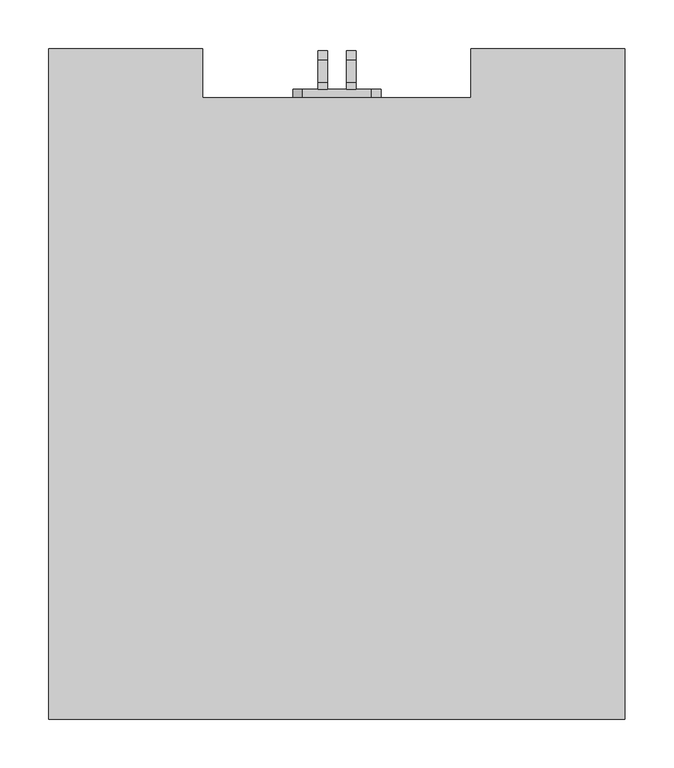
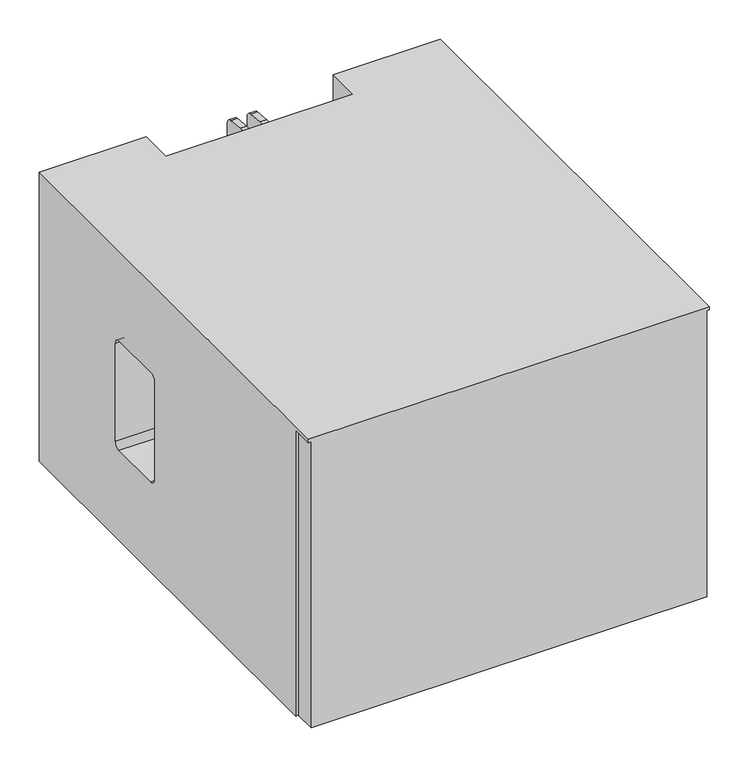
"""IFC4 building model written with IfcOpenShell, lengths in millimetres: proxy geometry, d&b CL-Series CCLi-SUB : CCLi-SUB."""

from ifc_helpers import new_model, si_unit, point, frame, frame_2d, origin, place, context, project, spatial, polyline, circle_curve, trimmed, segment, composite_curve, outline, extrude, source, transform, mapped, element, save
from ifc_brep_helpers import plane_surface, revolved_surface, advanced_brep


def communication_devices_964db2fb(model_context):
    return source(origin(), model_context, "Body", "SolidModel", [
        advanced_brep(
        [(2362.5, 649.4505973, 5.0), (2362.5, 599.4505973, 5.0), (2637.5, 599.4505973, 5.0), (2637.5, 649.4505973, 5.0), (2795.0, 649.4505973, 5.0), (2795.0, -5.5494027, 5.0), (2791.0, -5.5494027, 5.0), (2791.0, -36.5494027, 5.0), (2209.0, -36.5494027, 5.0), (2209.0, -4.1494027, 5.0), (2205.0, -4.1494027, 5.0), (2205.0, 649.4505973, 5.0), (2280.0, 589.4505973, 5.0), (2240.0, 589.4505973, 5.0), (2760.0, 589.4505973, 5.0), (2720.0, 589.4505973, 5.0), (2280.0, 29.4505973, 5.0), (2240.0, 29.4505973, 5.0), (2760.0, 29.4505973, 5.0), (2720.0, 29.4505973, 5.0), (2362.5, 649.4505973, 455.0), (2205.0, 649.4505973, 455.0), (2205.0, -36.5494027, 455.0), (2795.0, -36.5494027, 455.0), (2795.0, 649.4505973, 455.0), (2637.5, 649.4505973, 455.0), (2637.5, 599.4505973, 455.0), (2362.5, 599.4505973, 455.0), (2718.5, 644.4505973, 271.0), (2729.0, 644.4505973, 260.5), (2729.0, 644.4505973, 159.5), (2718.5, 644.4505973, 149.0), (2674.5, 644.4505973, 149.0), (2664.0, 644.4505973, 159.5), (2664.0, 644.4505973, 260.5), (2674.5, 644.4505973, 271.0), (2281.5, 644.4505973, 271.0), (2325.5, 644.4505973, 271.0), (2336.0, 644.4505973, 260.5), (2336.0, 644.4505973, 159.5), (2325.5, 644.4505973, 149.0), (2281.5, 644.4505973, 149.0), (2271.0, 644.4505973, 159.5), (2271.0, 644.4505973, 260.5), (2205.0, -36.5494027, 450.0), (2209.0, -36.5494027, 450.0), (2791.0, -36.5494027, 450.0), (2795.0, -36.5494027, 450.0), (2725.0, 455.2505973, 306.2), (2725.0, 446.2505973, 315.2), (2725.0, 365.2505973, 315.2), (2725.0, 356.2505973, 306.2), (2725.0, 356.2505973, 154.2), (2725.0, 365.2505973, 145.2), (2725.0, 446.2505973, 145.2), (2725.0, 455.2505973, 154.2), (2729.0, 649.4505973, 260.5), (2718.5, 649.4505973, 271.0), (2674.5, 649.4505973, 271.0), (2664.0, 649.4505973, 260.5), (2664.0, 649.4505973, 159.5), (2674.5, 649.4505973, 149.0), (2718.5, 649.4505973, 149.0), (2729.0, 649.4505973, 159.5), (2205.0, -4.1494027, 450.0), (2209.0, -4.1494027, 450.0), (2795.0, -5.5494027, 450.0), (2791.0, -5.5494027, 450.0), (2625.0, 599.4505973, 145.0), (2625.0, 599.4505973, 395.0), (2612.0, 599.4505973, 408.0), (2544.3424624, 599.4505973, 408.0), (2524.5518543, 599.4505973, 334.1404454), (2524.5518543, 599.4505973, 132.0), (2612.0, 599.4505973, 132.0), (2388.0, 599.4505973, 408.0), (2375.0, 599.4505973, 395.0), (2375.0, 599.4505973, 145.0), (2388.0, 599.4505973, 132.0), (2475.4481457, 599.4505973, 132.0), (2475.4481457, 599.4505973, 334.1404454), (2455.6575376, 599.4505973, 408.0), (2549.4918854, 599.4505973, 42.6706286), (2558.1852178, 599.4505973, 36.0), (2617.0, 599.4505973, 36.0), (2626.0, 599.4505973, 45.0), (2626.0, 599.4505973, 120.0), (2617.0, 599.4505973, 129.0), (2538.0890284, 599.4505973, 129.0), (2529.3956959, 599.4505973, 117.6706286), (2450.5081146, 599.4505973, 42.6706286), (2470.6043041, 599.4505973, 117.6706286), (2461.9109716, 599.4505973, 129.0), (2383.0, 599.4505973, 129.0), (2374.0, 599.4505973, 120.0), (2374.0, 599.4505973, 45.0), (2383.0, 599.4505973, 36.0), (2441.8147822, 599.4505973, 36.0), (2325.5, 649.4505973, 271.0), (2281.5, 649.4505973, 271.0), (2271.0, 649.4505973, 260.5), (2271.0, 649.4505973, 159.5), (2281.5, 649.4505973, 149.0), (2325.5, 649.4505973, 149.0), (2336.0, 649.4505973, 159.5), (2336.0, 649.4505973, 260.5), (2275.0, 446.2505973, 315.2), (2275.0, 455.2505973, 306.2), (2275.0, 455.2505973, 154.2), (2275.0, 446.2505973, 145.2), (2275.0, 365.2505973, 145.2), (2275.0, 356.2505973, 154.2), (2275.0, 356.2505973, 306.2), (2275.0, 365.2505973, 315.2), (2795.0, 446.2505973, 315.2), (2795.0, 455.2505973, 306.2), (2795.0, 455.2505973, 154.2), (2795.0, 446.2505973, 145.2), (2795.0, 365.2505973, 145.2), (2795.0, 356.2505973, 154.2), (2795.0, 356.2505973, 306.2), (2795.0, 365.2505973, 315.2), (2205.0, 446.2505973, 315.2), (2205.0, 365.2505973, 315.2), (2205.0, 356.2505973, 306.2), (2205.0, 356.2505973, 154.2), (2205.0, 365.2505973, 145.2), (2205.0, 446.2505973, 145.2), (2205.0, 455.2505973, 154.2), (2205.0, 455.2505973, 306.2), (2625.0, 594.4505973, 395.0), (2625.0, 594.4505973, 145.0), (2612.0, 594.4505973, 132.0), (2524.5518543, 594.4505973, 132.0), (2524.5518543, 594.4505973, 334.1404454), (2544.3424624, 594.4505973, 408.0), (2612.0, 594.4505973, 408.0), (2375.0, 594.4505973, 395.0), (2388.0, 594.4505973, 408.0), (2455.6575376, 594.4505973, 408.0), (2475.4481457, 594.4505973, 334.1404454), (2475.4481457, 594.4505973, 132.0), (2388.0, 594.4505973, 132.0), (2375.0, 594.4505973, 145.0), (2558.1852178, 594.4505973, 36.0), (2549.4918854, 594.4505973, 42.6706286), (2529.3956959, 594.4505973, 117.6706286), (2538.0890284, 594.4505973, 129.0), (2617.0, 594.4505973, 129.0), (2626.0, 594.4505973, 120.0), (2626.0, 594.4505973, 45.0), (2617.0, 594.4505973, 36.0), (2470.6043041, 594.4505973, 117.6706286), (2450.5081146, 594.4505973, 42.6706286), (2441.8147822, 594.4505973, 36.0), (2383.0, 594.4505973, 36.0), (2374.0, 594.4505973, 45.0), (2374.0, 594.4505973, 120.0), (2383.0, 594.4505973, 129.0), (2461.9109716, 594.4505973, 129.0), (2280.0, 589.4505973, 15.0), (2240.0, 589.4505973, 15.0), (2760.0, 589.4505973, 15.0), (2720.0, 589.4505973, 15.0), (2280.0, 29.4505973, 15.0), (2240.0, 29.4505973, 15.0), (2760.0, 29.4505973, 15.0), (2720.0, 29.4505973, 15.0)],
        [
            (0, 1),
            (1, 2),
            (2, 3),
            (3, 4),
            (4, 5),
            (5, 6),
            (6, 7),
            (7, 8),
            (8, 9),
            (9, 10),
            (10, 11),
            (11, 0),
            (12, 13, circle_curve(frame((2260.0, 589.4505973, 5.0), z_axis=(0.0, 0.0, 1.0), x_axis=(-1.0, 0.0, 0.0)), 20.0)),
            (13, 12, circle_curve(frame((2260.0, 589.4505973, 5.0), z_axis=(0.0, 0.0, 1.0), x_axis=(-1.0, 0.0, 0.0)), 20.0)),
            (14, 15, circle_curve(frame((2740.0, 589.4505973, 5.0), z_axis=(0.0, 0.0, 1.0), x_axis=(-1.0, 0.0, 0.0)), 20.0)),
            (15, 14, circle_curve(frame((2740.0, 589.4505973, 5.0), z_axis=(0.0, 0.0, 1.0), x_axis=(-1.0, 0.0, 0.0)), 20.0)),
            (16, 17, circle_curve(frame((2260.0, 29.4505973, 5.0), z_axis=(0.0, 0.0, 1.0), x_axis=(-1.0, 0.0, 0.0)), 20.0)),
            (17, 16, circle_curve(frame((2260.0, 29.4505973, 5.0), z_axis=(0.0, 0.0, 1.0), x_axis=(-1.0, 0.0, 0.0)), 20.0)),
            (18, 19, circle_curve(frame((2740.0, 29.4505973, 5.0), z_axis=(0.0, 0.0, 1.0), x_axis=(-1.0, 0.0, 0.0)), 20.0)),
            (19, 18, circle_curve(frame((2740.0, 29.4505973, 5.0), z_axis=(0.0, 0.0, 1.0), x_axis=(-1.0, 0.0, 0.0)), 20.0)),
            (20, 21),
            (21, 22),
            (22, 23),
            (23, 24),
            (24, 25),
            (25, 26),
            (26, 27),
            (27, 20),
            (28, 29, circle_curve(frame((2718.5, 644.4505973, 260.5), z_axis=(0.0, 1.0, 0.0), x_axis=(1.0, 0.0, 0.0)), 10.5)),
            (29, 30),
            (30, 31, circle_curve(frame((2718.5, 644.4505973, 159.5), z_axis=(0.0, 1.0, 0.0), x_axis=(1.0, 0.0, 0.0)), 10.5)),
            (31, 32),
            (32, 33, circle_curve(frame((2674.5, 644.4505973, 159.5), z_axis=(0.0, 1.0, 0.0), x_axis=(1.0, 0.0, 0.0)), 10.5)),
            (33, 34),
            (34, 35, circle_curve(frame((2674.5, 644.4505973, 260.5), z_axis=(0.0, 1.0, 0.0), x_axis=(1.0, 0.0, 0.0)), 10.5)),
            (35, 28),
            (36, 37),
            (37, 38, circle_curve(frame((2325.5, 644.4505973, 260.5), z_axis=(0.0, 1.0, 0.0), x_axis=(-1.0, 0.0, 0.0)), 10.5)),
            (38, 39),
            (39, 40, circle_curve(frame((2325.5, 644.4505973, 159.5), z_axis=(0.0, 1.0, 0.0), x_axis=(-1.0, 0.0, 0.0)), 10.5)),
            (40, 41),
            (41, 42, circle_curve(frame((2281.5, 644.4505973, 159.5), z_axis=(0.0, 1.0, 0.0), x_axis=(-1.0, 0.0, 0.0)), 10.5)),
            (42, 43),
            (43, 36, circle_curve(frame((2281.5, 644.4505973, 260.5), z_axis=(0.0, 1.0, 0.0), x_axis=(-1.0, 0.0, 0.0)), 10.5)),
            (22, 44),
            (44, 45),
            (45, 8),
            (7, 46),
            (46, 47),
            (47, 23),
            (48, 49, circle_curve(frame((2725.0, 446.2505973, 306.2), z_axis=(1.0, 0.0, 0.0), x_axis=(0.0, 0.0, 1.0)), 9.0)),
            (49, 50),
            (50, 51, circle_curve(frame((2725.0, 365.2505973, 306.2), z_axis=(1.0, 0.0, 0.0), x_axis=(0.0, 0.0, 1.0)), 9.0)),
            (51, 52),
            (52, 53, circle_curve(frame((2725.0, 365.2505973, 154.2), z_axis=(1.0, 0.0, 0.0), x_axis=(0.0, 0.0, 1.0)), 9.0)),
            (53, 54),
            (54, 55, circle_curve(frame((2725.0, 446.2505973, 154.2), z_axis=(1.0, 0.0, 0.0), x_axis=(0.0, 0.0, 1.0)), 9.0)),
            (55, 48),
            (3, 25),
            (24, 4),
            (56, 57, circle_curve(frame((2718.5, 649.4505973, 260.5), z_axis=(0.0, -1.0, 0.0), x_axis=(1.0, 0.0, 0.0)), 10.5)),
            (57, 58),
            (58, 59, circle_curve(frame((2674.5, 649.4505973, 260.5), z_axis=(0.0, -1.0, 0.0), x_axis=(1.0, 0.0, 0.0)), 10.5)),
            (59, 60),
            (60, 61, circle_curve(frame((2674.5, 649.4505973, 159.5), z_axis=(0.0, -1.0, 0.0), x_axis=(1.0, 0.0, 0.0)), 10.5)),
            (61, 62),
            (62, 63, circle_curve(frame((2718.5, 649.4505973, 159.5), z_axis=(0.0, -1.0, 0.0), x_axis=(1.0, 0.0, 0.0)), 10.5)),
            (63, 56),
            (44, 64),
            (64, 65),
            (65, 45),
            (66, 47),
            (46, 67),
            (67, 66),
            (2, 26),
            (1, 27),
            (68, 69),
            (69, 70, circle_curve(frame((2612.0, 599.4505973, 395.0), z_axis=(0.0, -1.0, 0.0), x_axis=(1.0, 0.0, 0.0)), 13.0)),
            (70, 71),
            (71, 72),
            (72, 73),
            (73, 74),
            (74, 68, circle_curve(frame((2612.0, 599.4505973, 145.0), z_axis=(0.0, -1.0, 0.0), x_axis=(1.0, 0.0, 0.0)), 13.0)),
            (75, 76, circle_curve(frame((2388.0, 599.4505973, 395.0), z_axis=(0.0, -1.0, 0.0), x_axis=(-1.0, 0.0, 0.0)), 13.0)),
            (76, 77),
            (77, 78, circle_curve(frame((2388.0, 599.4505973, 145.0), z_axis=(0.0, -1.0, 0.0), x_axis=(-1.0, 0.0, 0.0)), 13.0)),
            (78, 79),
            (79, 80),
            (80, 81),
            (81, 75),
            (82, 83, circle_curve(frame((2558.1852178, 599.4505973, 45.0), z_axis=(0.0, -1.0, 0.0), x_axis=(1.0, 0.0, 0.0)), 9.0)),
            (83, 84),
            (84, 85, circle_curve(frame((2617.0, 599.4505973, 45.0), z_axis=(0.0, -1.0, 0.0), x_axis=(1.0, 0.0, 0.0)), 9.0)),
            (85, 86),
            (86, 87, circle_curve(frame((2617.0, 599.4505973, 120.0), z_axis=(0.0, -1.0, 0.0), x_axis=(1.0, 0.0, 0.0)), 9.0)),
            (87, 88),
            (88, 89, circle_curve(frame((2538.0890284, 599.4505973, 120.0), z_axis=(0.0, -1.0, 0.0), x_axis=(1.0, 0.0, 0.0)), 9.0)),
            (89, 82),
            (90, 91),
            (91, 92, circle_curve(frame((2461.9109716, 599.4505973, 120.0), z_axis=(0.0, -1.0, 0.0), x_axis=(-1.0, 0.0, 0.0)), 9.0)),
            (92, 93),
            (93, 94, circle_curve(frame((2383.0, 599.4505973, 120.0), z_axis=(0.0, -1.0, 0.0), x_axis=(-1.0, 0.0, 0.0)), 9.0)),
            (94, 95),
            (95, 96, circle_curve(frame((2383.0, 599.4505973, 45.0), z_axis=(0.0, -1.0, 0.0), x_axis=(-1.0, 0.0, 0.0)), 9.0)),
            (96, 97),
            (97, 90, circle_curve(frame((2441.8147822, 599.4505973, 45.0), z_axis=(0.0, -1.0, 0.0), x_axis=(-1.0, 0.0, 0.0)), 9.0)),
            (0, 20),
            (11, 21),
            (98, 99),
            (99, 100, circle_curve(frame((2281.5, 649.4505973, 260.5), z_axis=(0.0, -1.0, 0.0), x_axis=(-1.0, 0.0, 0.0)), 10.5)),
            (100, 101),
            (101, 102, circle_curve(frame((2281.5, 649.4505973, 159.5), z_axis=(0.0, -1.0, 0.0), x_axis=(-1.0, 0.0, 0.0)), 10.5)),
            (102, 103),
            (103, 104, circle_curve(frame((2325.5, 649.4505973, 159.5), z_axis=(0.0, -1.0, 0.0), x_axis=(-1.0, 0.0, 0.0)), 10.5)),
            (104, 105),
            (105, 98, circle_curve(frame((2325.5, 649.4505973, 260.5), z_axis=(0.0, -1.0, 0.0), x_axis=(-1.0, 0.0, 0.0)), 10.5)),
            (106, 107, circle_curve(frame((2275.0, 446.2505973, 306.2), z_axis=(-1.0, 0.0, 0.0), x_axis=(0.0, 0.0, 1.0)), 9.0)),
            (107, 108),
            (108, 109, circle_curve(frame((2275.0, 446.2505973, 154.2), z_axis=(-1.0, 0.0, 0.0), x_axis=(0.0, 0.0, 1.0)), 9.0)),
            (109, 110),
            (110, 111, circle_curve(frame((2275.0, 365.2505973, 154.2), z_axis=(-1.0, 0.0, 0.0), x_axis=(0.0, 0.0, 1.0)), 9.0)),
            (111, 112),
            (112, 113, circle_curve(frame((2275.0, 365.2505973, 306.2), z_axis=(-1.0, 0.0, 0.0), x_axis=(0.0, 0.0, 1.0)), 9.0)),
            (113, 106),
            (66, 5),
            (114, 115, circle_curve(frame((2795.0, 446.2505973, 306.2), z_axis=(-1.0, 0.0, 0.0), x_axis=(0.0, 0.0, 1.0)), 9.0)),
            (115, 116),
            (116, 117, circle_curve(frame((2795.0, 446.2505973, 154.2), z_axis=(-1.0, 0.0, 0.0), x_axis=(0.0, 0.0, 1.0)), 9.0)),
            (117, 118),
            (118, 119, circle_curve(frame((2795.0, 365.2505973, 154.2), z_axis=(-1.0, 0.0, 0.0), x_axis=(0.0, 0.0, 1.0)), 9.0)),
            (119, 120),
            (120, 121, circle_curve(frame((2795.0, 365.2505973, 306.2), z_axis=(-1.0, 0.0, 0.0), x_axis=(0.0, 0.0, 1.0)), 9.0)),
            (121, 114),
            (67, 6),
            (114, 49),
            (48, 115),
            (55, 116),
            (54, 117),
            (53, 118),
            (52, 119),
            (51, 120),
            (50, 121),
            (10, 64),
            (122, 123),
            (123, 124, circle_curve(frame((2205.0, 365.2505973, 306.2), z_axis=(1.0, 0.0, 0.0), x_axis=(0.0, 0.0, 1.0)), 9.0)),
            (124, 125),
            (125, 126, circle_curve(frame((2205.0, 365.2505973, 154.2), z_axis=(1.0, 0.0, 0.0), x_axis=(0.0, 0.0, 1.0)), 9.0)),
            (126, 127),
            (127, 128, circle_curve(frame((2205.0, 446.2505973, 154.2), z_axis=(1.0, 0.0, 0.0), x_axis=(0.0, 0.0, 1.0)), 9.0)),
            (128, 129),
            (129, 122, circle_curve(frame((2205.0, 446.2505973, 306.2), z_axis=(1.0, 0.0, 0.0), x_axis=(0.0, 0.0, 1.0)), 9.0)),
            (9, 65),
            (129, 107),
            (106, 122),
            (128, 108),
            (127, 109),
            (126, 110),
            (125, 111),
            (124, 112),
            (123, 113),
            (28, 57),
            (56, 29),
            (63, 30),
            (62, 31),
            (61, 32),
            (60, 33),
            (59, 34),
            (58, 35),
            (36, 99),
            (98, 37),
            (105, 38),
            (104, 39),
            (103, 40),
            (102, 41),
            (101, 42),
            (100, 43),
            (130, 131),
            (131, 132, circle_curve(frame((2612.0, 594.4505973, 145.0), z_axis=(0.0, 1.0, 0.0), x_axis=(1.0, 0.0, 0.0)), 13.0)),
            (132, 133),
            (133, 134),
            (134, 135),
            (135, 136),
            (136, 130, circle_curve(frame((2612.0, 594.4505973, 395.0), z_axis=(0.0, 1.0, 0.0), x_axis=(1.0, 0.0, 0.0)), 13.0)),
            (137, 138, circle_curve(frame((2388.0, 594.4505973, 395.0), z_axis=(0.0, 1.0, 0.0), x_axis=(-1.0, 0.0, 0.0)), 13.0)),
            (138, 139),
            (139, 140),
            (140, 141),
            (141, 142),
            (142, 143, circle_curve(frame((2388.0, 594.4505973, 145.0), z_axis=(0.0, 1.0, 0.0), x_axis=(-1.0, 0.0, 0.0)), 13.0)),
            (143, 137),
            (144, 145, circle_curve(frame((2558.1852178, 594.4505973, 45.0), z_axis=(0.0, 1.0, 0.0), x_axis=(1.0, 0.0, 0.0)), 9.0)),
            (145, 146),
            (146, 147, circle_curve(frame((2538.0890284, 594.4505973, 120.0), z_axis=(0.0, 1.0, 0.0), x_axis=(1.0, 0.0, 0.0)), 9.0)),
            (147, 148),
            (148, 149, circle_curve(frame((2617.0, 594.4505973, 120.0), z_axis=(0.0, 1.0, 0.0), x_axis=(1.0, 0.0, 0.0)), 9.0)),
            (149, 150),
            (150, 151, circle_curve(frame((2617.0, 594.4505973, 45.0), z_axis=(0.0, 1.0, 0.0), x_axis=(1.0, 0.0, 0.0)), 9.0)),
            (151, 144),
            (152, 153),
            (153, 154, circle_curve(frame((2441.8147822, 594.4505973, 45.0), z_axis=(0.0, 1.0, 0.0), x_axis=(-1.0, 0.0, 0.0)), 9.0)),
            (154, 155),
            (155, 156, circle_curve(frame((2383.0, 594.4505973, 45.0), z_axis=(0.0, 1.0, 0.0), x_axis=(-1.0, 0.0, 0.0)), 9.0)),
            (156, 157),
            (157, 158, circle_curve(frame((2383.0, 594.4505973, 120.0), z_axis=(0.0, 1.0, 0.0), x_axis=(-1.0, 0.0, 0.0)), 9.0)),
            (158, 159),
            (159, 152, circle_curve(frame((2461.9109716, 594.4505973, 120.0), z_axis=(0.0, 1.0, 0.0), x_axis=(-1.0, 0.0, 0.0)), 9.0)),
            (130, 69),
            (68, 131),
            (74, 132),
            (73, 133),
            (72, 134),
            (71, 135),
            (70, 136),
            (137, 76),
            (75, 138),
            (81, 139),
            (80, 140),
            (79, 141),
            (78, 142),
            (77, 143),
            (144, 83),
            (82, 145),
            (89, 146),
            (88, 147),
            (87, 148),
            (86, 149),
            (85, 150),
            (84, 151),
            (152, 91),
            (90, 153),
            (97, 154),
            (96, 155),
            (95, 156),
            (94, 157),
            (93, 158),
            (92, 159),
            (160, 161, circle_curve(frame((2260.0, 589.4505973, 15.0), z_axis=(0.0, 0.0, -1.0), x_axis=(-1.0, 0.0, 0.0)), 20.0)),
            (161, 160, circle_curve(frame((2260.0, 589.4505973, 15.0), z_axis=(0.0, 0.0, -1.0), x_axis=(-1.0, 0.0, 0.0)), 20.0)),
            (162, 163, circle_curve(frame((2740.0, 589.4505973, 15.0), z_axis=(0.0, 0.0, -1.0), x_axis=(-1.0, 0.0, 0.0)), 20.0)),
            (163, 162, circle_curve(frame((2740.0, 589.4505973, 15.0), z_axis=(0.0, 0.0, -1.0), x_axis=(-1.0, 0.0, 0.0)), 20.0)),
            (164, 165, circle_curve(frame((2260.0, 29.4505973, 15.0), z_axis=(0.0, 0.0, -1.0), x_axis=(-1.0, 0.0, 0.0)), 20.0)),
            (165, 164, circle_curve(frame((2260.0, 29.4505973, 15.0), z_axis=(0.0, 0.0, -1.0), x_axis=(-1.0, 0.0, 0.0)), 20.0)),
            (166, 167, circle_curve(frame((2740.0, 29.4505973, 15.0), z_axis=(0.0, 0.0, -1.0), x_axis=(-1.0, 0.0, 0.0)), 20.0)),
            (167, 166, circle_curve(frame((2740.0, 29.4505973, 15.0), z_axis=(0.0, 0.0, -1.0), x_axis=(-1.0, 0.0, 0.0)), 20.0)),
            (161, 13),
            (12, 160),
            (163, 15),
            (14, 162),
            (165, 17),
            (16, 164),
            (167, 19),
            (18, 166),
        ],
        [
            plane_surface(frame((2725.0, 852.7005973, 5.0), z_axis=(0.0, 0.0, -1.0), x_axis=(0.0, -1.0, 0.0))),
            plane_surface(frame((1715.924767, 649.4505973, 455.0), z_axis=(0.0, 0.0, 1.0), x_axis=(-1.0, 0.0, 0.0))),
            plane_surface(frame((2729.0, 644.4505973, 260.5), z_axis=(0.0, 1.0, 0.0), x_axis=(0.0, 0.0, 1.0))),
            plane_surface(frame((2275.0, -36.5494027, 450.0), z_axis=(0.0, -1.0, 0.0), x_axis=(0.0, 0.0, -1.0))),
            plane_surface(frame((2725.0, -36.5494027, 450.0), z_axis=(1.0, 0.0, 0.0), x_axis=(0.0, 0.0, -1.0))),
            plane_surface(frame((2725.0, 649.4505973, 450.0), z_axis=(0.0, 1.0, 0.0), x_axis=(0.0, 0.0, -1.0))),
            plane_surface(frame((1715.924767, 649.4505973, 450.0), z_axis=(0.0, 0.0, -1.0), x_axis=(1.0, 0.0, 0.0))),
            plane_surface(frame((2637.5, 649.4505973, 450.0), z_axis=(-1.0, 0.0, 0.0), x_axis=(0.0, 0.0, -1.0))),
            plane_surface(frame((2637.5, 599.4505973, 450.0), z_axis=(0.0, 1.0, 0.0), x_axis=(0.0, 0.0, -1.0))),
            plane_surface(frame((2362.5, 599.4505973, 450.0), z_axis=(1.0, 0.0, 0.0), x_axis=(0.0, 0.0, -1.0))),
            plane_surface(frame((2362.5, 649.4505973, 450.0), z_axis=(0.0, 1.0, 0.0), x_axis=(0.0, 0.0, -1.0))),
            plane_surface(frame((2275.0, 649.4505973, 450.0), z_axis=(-1.0, 0.0, 0.0), x_axis=(0.0, 0.0, -1.0))),
            plane_surface(frame((2795.0, 1093.4505973, 450.0), z_axis=(1.0, 0.0, 0.0), x_axis=(0.0, -1.0, 0.0))),
            plane_surface(frame((2725.0, -5.5494027, 5.0), z_axis=(0.0, -1.0, 0.0), x_axis=(1.0, 0.0, 0.0))),
            revolved_surface(polyline([(2795.0, 446.2505973, 315.2), (2725.0, 446.2505973, 315.2)]), (2795.0, 446.2505973, 306.2), (1.0, 0.0, 0.0)),
            plane_surface(frame((2725.0, 455.2505973, 154.2), z_axis=(0.0, -1.0, 0.0), x_axis=(1.0, 0.0, 0.0))),
            revolved_surface(polyline([(2795.0, 446.2505973, 163.2), (2725.0, 446.2505973, 163.2)]), (2795.0, 446.2505973, 154.2), (1.0, 0.0, 0.0)),
            plane_surface(frame((2725.0, 365.2505973, 145.2), z_axis=(0.0, 0.0, 1.0), x_axis=(1.0, 0.0, 0.0))),
            revolved_surface(polyline([(2795.0, 365.2505973, 163.2), (2725.0, 365.2505973, 163.2)]), (2795.0, 365.2505973, 154.2), (1.0, 0.0, 0.0)),
            plane_surface(frame((2725.0, 356.2505973, 306.2), z_axis=(0.0, 1.0, 0.0), x_axis=(1.0, 0.0, 0.0))),
            revolved_surface(polyline([(2795.0, 365.2505973, 315.2), (2725.0, 365.2505973, 315.2)]), (2795.0, 365.2505973, 306.2), (1.0, 0.0, 0.0)),
            plane_surface(frame((2725.0, 446.2505973, 315.2), z_axis=(0.0, 0.0, -1.0), x_axis=(1.0, 0.0, 0.0))),
            plane_surface(frame((2205.0, -4.1494027, -19.8), z_axis=(-1.0, 0.0, 0.0), x_axis=(0.0, 0.0, 1.0))),
            plane_surface(frame((2275.0, -4.1494027, 450.0), z_axis=(0.0, -1.0, 0.0), x_axis=(-1.0, 0.0, 0.0))),
            revolved_surface(polyline([(2205.0, 446.2505973, 315.2), (2275.0, 446.2505973, 315.2)]), (2205.0, 446.2505973, 306.2), (-1.0, 0.0, 0.0)),
            plane_surface(frame((2275.0, 455.2505973, 306.2), z_axis=(0.0, -1.0, 0.0), x_axis=(-1.0, 0.0, 0.0))),
            revolved_surface(polyline([(2205.0, 446.2505973, 163.2), (2275.0, 446.2505973, 163.2)]), (2205.0, 446.2505973, 154.2), (-1.0, 0.0, 0.0)),
            plane_surface(frame((2275.0, 446.2505973, 145.2), z_axis=(0.0, 0.0, 1.0), x_axis=(-1.0, 0.0, 0.0))),
            revolved_surface(polyline([(2205.0, 365.2505973, 163.2), (2275.0, 365.2505973, 163.2)]), (2205.0, 365.2505973, 154.2), (-1.0, 0.0, 0.0)),
            plane_surface(frame((2275.0, 356.2505973, 154.2), z_axis=(0.0, 1.0, 0.0), x_axis=(-1.0, 0.0, 0.0))),
            revolved_surface(polyline([(2205.0, 365.2505973, 315.2), (2275.0, 365.2505973, 315.2)]), (2205.0, 365.2505973, 306.2), (-1.0, 0.0, 0.0)),
            plane_surface(frame((2275.0, 365.2505973, 315.2), z_axis=(0.0, 0.0, -1.0), x_axis=(-1.0, 0.0, 0.0))),
            revolved_surface(polyline([(2729.0, 649.4505973, 260.5), (2729.0, 644.4505973, 260.5)]), (2718.5, 644.4505973, 260.5), (0.0, 1.0, 0.0)),
            plane_surface(frame((2729.0, 649.4505973, 260.5), z_axis=(-1.0, 0.0, 0.0), x_axis=(0.0, -1.0, 0.0))),
            revolved_surface(polyline([(2729.0, 649.4505973, 159.5), (2729.0, 644.4505973, 159.5)]), (2718.5, 644.4505973, 159.5), (0.0, 1.0, 0.0)),
            plane_surface(frame((2718.5, 649.4505973, 149.0), z_axis=(0.0, 0.0, 1.0), x_axis=(0.0, -1.0, 0.0))),
            revolved_surface(polyline([(2685.0, 649.4505973, 159.5), (2685.0, 644.4505973, 159.5)]), (2674.5, 644.4505973, 159.5), (0.0, 1.0, 0.0)),
            plane_surface(frame((2664.0, 649.4505973, 159.5), z_axis=(1.0, 0.0, 0.0), x_axis=(0.0, -1.0, 0.0))),
            revolved_surface(polyline([(2685.0, 649.4505973, 260.5), (2685.0, 644.4505973, 260.5)]), (2674.5, 644.4505973, 260.5), (0.0, 1.0, 0.0)),
            plane_surface(frame((2674.5, 649.4505973, 271.0), z_axis=(0.0, 0.0, -1.0), x_axis=(0.0, -1.0, 0.0))),
            plane_surface(frame((2281.5, 649.4505973, 271.0), z_axis=(0.0, 0.0, -1.0), x_axis=(0.0, -1.0, 0.0))),
            revolved_surface(polyline([(2315.0, 649.4505973, 260.5), (2315.0, 644.4505973, 260.5)]), (2325.5, 649.4505973, 260.5), (0.0, 1.0, 0.0)),
            plane_surface(frame((2336.0, 649.4505973, 260.5), z_axis=(-1.0, 0.0, 0.0), x_axis=(0.0, -1.0, 0.0))),
            revolved_surface(polyline([(2315.0, 649.4505973, 159.5), (2315.0, 644.4505973, 159.5)]), (2325.5, 649.4505973, 159.5), (0.0, 1.0, 0.0)),
            plane_surface(frame((2325.5, 649.4505973, 149.0), z_axis=(0.0, 0.0, 1.0), x_axis=(0.0, -1.0, 0.0))),
            revolved_surface(polyline([(2271.0, 649.4505973, 159.5), (2271.0, 644.4505973, 159.5)]), (2281.5, 649.4505973, 159.5), (0.0, 1.0, 0.0)),
            plane_surface(frame((2271.0, 649.4505973, 159.5), z_axis=(1.0, 0.0, 0.0), x_axis=(0.0, -1.0, 0.0))),
            revolved_surface(polyline([(2271.0, 649.4505973, 260.5), (2271.0, 644.4505973, 260.5)]), (2281.5, 649.4505973, 260.5), (0.0, 1.0, 0.0)),
            plane_surface(frame((2625.0, 594.4505973, 45.0), z_axis=(0.0, 1.0, 0.0), x_axis=(0.0, 0.0, 1.0))),
            plane_surface(frame((2625.0, 599.4505973, 395.0), z_axis=(-1.0, 0.0, 0.0), x_axis=(0.0, -1.0, 0.0))),
            revolved_surface(polyline([(2625.0, 599.4505973, 145.0), (2625.0, 594.4505973, 145.0)]), (2612.0, 594.4505973, 145.0), (0.0, 1.0, 0.0)),
            plane_surface(frame((2612.0, 599.4505973, 132.0), z_axis=(0.0, 0.0, 1.0), x_axis=(0.0, -1.0, 0.0))),
            plane_surface(frame((2524.5518543, 599.4505973, 132.0), z_axis=(1.0, 0.0, 0.0), x_axis=(0.0, -1.0, 0.0))),
            plane_surface(frame((2524.5518543, 599.4505973, 334.1404454), z_axis=(0.9659258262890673, 0.0, -0.25881904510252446), x_axis=(0.0, -1.0, 0.0))),
            plane_surface(frame((2544.3424624, 599.4505973, 408.0), z_axis=(0.0, 0.0, -1.0), x_axis=(0.0, -1.0, 0.0))),
            revolved_surface(polyline([(2625.0, 599.4505973, 395.0), (2625.0, 594.4505973, 395.0)]), (2612.0, 594.4505973, 395.0), (0.0, 1.0, 0.0)),
            revolved_surface(polyline([(2375.0, 599.4505973, 395.0), (2375.0, 594.4505973, 395.0)]), (2388.0, 599.4505973, 395.0), (0.0, 1.0, 0.0)),
            plane_surface(frame((2388.0, 599.4505973, 408.0), z_axis=(0.0, 0.0, -1.0), x_axis=(0.0, -1.0, 0.0))),
            plane_surface(frame((2455.6575376, 599.4505973, 408.0), z_axis=(-0.9659258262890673, 0.0, -0.25881904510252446), x_axis=(0.0, -1.0, 0.0))),
            plane_surface(frame((2475.4481457, 599.4505973, 334.1404454), z_axis=(-1.0, 0.0, 0.0), x_axis=(0.0, -1.0, 0.0))),
            plane_surface(frame((2475.4481457, 599.4505973, 132.0), z_axis=(0.0, 0.0, 1.0), x_axis=(0.0, -1.0, 0.0))),
            revolved_surface(polyline([(2375.0, 599.4505973, 145.0), (2375.0, 594.4505973, 145.0)]), (2388.0, 599.4505973, 145.0), (0.0, 1.0, 0.0)),
            plane_surface(frame((2375.0, 599.4505973, 145.0), z_axis=(1.0, 0.0, 0.0), x_axis=(0.0, -1.0, 0.0))),
            revolved_surface(polyline([(2567.1852178, 599.4505973, 45.0), (2567.1852178, 594.4505973, 45.0)]), (2558.1852178, 599.4505973, 45.0), (0.0, 1.0, 0.0)),
            plane_surface(frame((2549.4918854, 599.4505973, 42.6706286), z_axis=(0.9659258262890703, 0.0, 0.25881904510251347), x_axis=(0.0, -1.0, 0.0))),
            revolved_surface(polyline([(2547.0890284, 599.4505973, 120.0), (2547.0890284, 594.4505973, 120.0)]), (2538.0890284, 599.4505973, 120.0), (0.0, 1.0, 0.0)),
            plane_surface(frame((2538.0890284, 599.4505973, 129.0), z_axis=(0.0, 0.0, -1.0), x_axis=(0.0, -1.0, 0.0))),
            revolved_surface(polyline([(2626.0, 599.4505973, 120.0), (2626.0, 594.4505973, 120.0)]), (2617.0, 599.4505973, 120.0), (0.0, 1.0, 0.0)),
            plane_surface(frame((2626.0, 599.4505973, 120.0), z_axis=(-1.0, 0.0, 0.0), x_axis=(0.0, -1.0, 0.0))),
            revolved_surface(polyline([(2626.0, 599.4505973, 45.0), (2626.0, 594.4505973, 45.0)]), (2617.0, 599.4505973, 45.0), (0.0, 1.0, 0.0)),
            plane_surface(frame((2617.0, 599.4505973, 36.0), z_axis=(0.0, 0.0, 1.0), x_axis=(0.0, -1.0, 0.0))),
            plane_surface(frame((2470.6043041, 599.4505973, 117.6706286), z_axis=(-0.9659258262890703, 0.0, 0.25881904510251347), x_axis=(0.0, -1.0, 0.0))),
            revolved_surface(polyline([(2432.8147822, 599.4505973, 45.0), (2432.8147822, 594.4505973, 45.0)]), (2441.8147822, 599.4505973, 45.0), (0.0, 1.0, 0.0)),
            plane_surface(frame((2441.8147822, 599.4505973, 36.0), z_axis=(0.0, 0.0, 1.0), x_axis=(0.0, -1.0, 0.0))),
            revolved_surface(polyline([(2374.0, 599.4505973, 45.0), (2374.0, 594.4505973, 45.0)]), (2383.0, 599.4505973, 45.0), (0.0, 1.0, 0.0)),
            plane_surface(frame((2374.0, 599.4505973, 45.0), z_axis=(1.0, 0.0, 0.0), x_axis=(0.0, -1.0, 0.0))),
            revolved_surface(polyline([(2374.0, 599.4505973, 120.0), (2374.0, 594.4505973, 120.0)]), (2383.0, 599.4505973, 120.0), (0.0, 1.0, 0.0)),
            plane_surface(frame((2383.0, 599.4505973, 129.0), z_axis=(0.0, 0.0, -1.0), x_axis=(0.0, -1.0, 0.0))),
            revolved_surface(polyline([(2452.9109716, 599.4505973, 120.0), (2452.9109716, 594.4505973, 120.0)]), (2461.9109716, 599.4505973, 120.0), (0.0, 1.0, 0.0)),
            plane_surface(frame((2209.0, -36.5494027, 5.0), z_axis=(-1.0, 0.0, 0.0), x_axis=(0.0, 0.0, 1.0))),
            plane_surface(frame((2791.0, -4.1494027, 5.0), z_axis=(1.0, 0.0, 0.0), x_axis=(0.0, 0.0, 1.0))),
            plane_surface(frame((2240.0, 589.4505973, 15.0), z_axis=(0.0, 0.0, -1.0), x_axis=(0.0, -1.0, 0.0))),
            revolved_surface(polyline([(2240.0, 589.4505973, 15.0), (2240.0, 589.4505973, 5.0)]), (2260.0, 589.4505973, 5.0), (0.0, 0.0, 1.0)),
            revolved_surface(polyline([(2720.0, 589.4505973, 15.0), (2720.0, 589.4505973, 5.0)]), (2740.0, 589.4505973, 5.0), (0.0, 0.0, 1.0)),
            revolved_surface(polyline([(2240.0, 29.4505973, 15.0), (2240.0, 29.4505973, 5.0)]), (2260.0, 29.4505973, 5.0), (0.0, 0.0, 1.0)),
            revolved_surface(polyline([(2720.0, 29.4505973, 15.0), (2720.0, 29.4505973, 5.0)]), (2740.0, 29.4505973, 5.0), (0.0, 0.0, 1.0)),
        ],
        [
            (0, [[1, 2, 3, 4, 5, 6, 7, 8, 9, 10, 11, 12], [13, 14], [15, 16], [17, 18], [19, 20]]),
            (1, [[21, 22, 23, 24, 25, 26, 27, 28]]),
            (2, [[29, 30, 31, 32, 33, 34, 35, 36]]),
            (2, [[37, 38, 39, 40, 41, 42, 43, 44]]),
            (3, [[-23, 45, 46, 47, -8, 48, 49, 50]]),
            (4, [[51, 52, 53, 54, 55, 56, 57, 58]]),
            (5, [[-4, 59, -25, 60], [61, 62, 63, 64, 65, 66, 67, 68]]),
            (6, [[69, 70, 71, -46]]),
            (6, [[72, -49, 73, 74]]),
            (7, [[-3, 75, -26, -59]]),
            (8, [[-2, 76, -27, -75], [77, 78, 79, 80, 81, 82, 83], [84, 85, 86, 87, 88, 89, 90], [91, 92, 93, 94, 95, 96, 97, 98], [99, 100, 101, 102, 103, 104, 105, 106]]),
            (9, [[-1, 107, -28, -76]]),
            (10, [[-12, 108, -21, -107], [109, 110, 111, 112, 113, 114, 115, 116]]),
            (11, [[117, 118, 119, 120, 121, 122, 123, 124]]),
            (12, [[125, -5, -60, -24, -50, -72], [126, 127, 128, 129, 130, 131, 132, 133]]),
            (13, [[-125, -74, 134, -6]]),
            (14, [[-126, 135, -51, 136]]),
            (15, [[-127, -136, -58, 137]]),
            (16, [[-128, -137, -57, 138]]),
            (17, [[-129, -138, -56, 139]]),
            (18, [[-130, -139, -55, 140]]),
            (19, [[-131, -140, -54, 141]]),
            (20, [[-132, -141, -53, 142]]),
            (21, [[-133, -142, -52, -135]]),
            (22, [[-11, 143, -69, -45, -22, -108], [144, 145, 146, 147, 148, 149, 150, 151]]),
            (23, [[-143, -10, 152, -70]]),
            (24, [[-151, 153, -117, 154]]),
            (25, [[-150, 155, -118, -153]]),
            (26, [[-149, 156, -119, -155]]),
            (27, [[-148, 157, -120, -156]]),
            (28, [[-147, 158, -121, -157]]),
            (29, [[-146, 159, -122, -158]]),
            (30, [[-145, 160, -123, -159]]),
            (31, [[-144, -154, -124, -160]]),
            (32, [[-29, 161, -61, 162]]),
            (33, [[-30, -162, -68, 163]]),
            (34, [[-31, -163, -67, 164]]),
            (35, [[-32, -164, -66, 165]]),
            (36, [[-33, -165, -65, 166]]),
            (37, [[-34, -166, -64, 167]]),
            (38, [[-35, -167, -63, 168]]),
            (39, [[-36, -168, -62, -161]]),
            (40, [[-37, 169, -109, 170]]),
            (41, [[-38, -170, -116, 171]]),
            (42, [[-39, -171, -115, 172]]),
            (43, [[-40, -172, -114, 173]]),
            (44, [[-41, -173, -113, 174]]),
            (45, [[-42, -174, -112, 175]]),
            (46, [[-43, -175, -111, 176]]),
            (47, [[-44, -176, -110, -169]]),
            (48, [[177, 178, 179, 180, 181, 182, 183]]),
            (48, [[184, 185, 186, 187, 188, 189, 190]]),
            (48, [[191, 192, 193, 194, 195, 196, 197, 198]]),
            (48, [[199, 200, 201, 202, 203, 204, 205, 206]]),
            (49, [[-177, 207, -77, 208]]),
            (50, [[-178, -208, -83, 209]]),
            (51, [[-179, -209, -82, 210]]),
            (52, [[-180, -210, -81, 211]]),
            (53, [[-181, -211, -80, 212]]),
            (54, [[-182, -212, -79, 213]]),
            (55, [[-183, -213, -78, -207]]),
            (56, [[-184, 214, -84, 215]]),
            (57, [[-185, -215, -90, 216]]),
            (58, [[-186, -216, -89, 217]]),
            (59, [[-187, -217, -88, 218]]),
            (60, [[-188, -218, -87, 219]]),
            (61, [[-189, -219, -86, 220]]),
            (62, [[-190, -220, -85, -214]]),
            (63, [[-191, 221, -91, 222]]),
            (64, [[-192, -222, -98, 223]]),
            (65, [[-193, -223, -97, 224]]),
            (66, [[-194, -224, -96, 225]]),
            (67, [[-195, -225, -95, 226]]),
            (68, [[-196, -226, -94, 227]]),
            (69, [[-197, -227, -93, 228]]),
            (70, [[-198, -228, -92, -221]]),
            (71, [[-199, 229, -99, 230]]),
            (72, [[-200, -230, -106, 231]]),
            (73, [[-201, -231, -105, 232]]),
            (74, [[-202, -232, -104, 233]]),
            (75, [[-203, -233, -103, 234]]),
            (76, [[-204, -234, -102, 235]]),
            (77, [[-205, -235, -101, 236]]),
            (78, [[-206, -236, -100, -229]]),
            (79, [[-9, -47, -71, -152]]),
            (80, [[-48, -7, -134, -73]]),
            (81, [[237, 238]]),
            (81, [[239, 240]]),
            (81, [[241, 242]]),
            (81, [[243, 244]]),
            (82, [[-238, 245, -13, 246]]),
            (82, [[-237, -246, -14, -245]]),
            (83, [[-240, 247, -15, 248]]),
            (83, [[-239, -248, -16, -247]]),
            (84, [[-242, 249, -17, 250]]),
            (84, [[-241, -250, -18, -249]]),
            (85, [[-244, 251, -19, 252]]),
            (85, [[-243, -252, -20, -251]]),
        ],
    ),
        extrude(outline(composite_curve([segment(polyline([(614.9505973, 447.2), (638.3221547, 445.1552537)]), True, "CONTINUOUS"), segment(trimmed(circle_curve(frame_2d((637.4505973, 435.1933067)), 10.0), [point((638.3221547, 445.1552537))], [point((647.4505973, 435.1933067))], False, "CARTESIAN"), True, "CONTINUOUS"), segment(polyline([(647.4505973, 435.1933067), (647.4505973, 217.3), (645.7005973, 217.3)]), True, "CONTINUOUS"), segment(trimmed(circle_curve(frame_2d((645.7005973, 211.8)), 5.5), [point((645.7005973, 217.3))], [point((640.2005973, 211.8))], True, "CARTESIAN"), True, "CONTINUOUS"), segment(polyline([(640.2005973, 211.8), (640.2005973, 179.8)]), True, "CONTINUOUS"), segment(trimmed(circle_curve(frame_2d((740.2005973, 179.8)), 100.0), [point((640.2005973, 179.8))], [point((647.4505973, 142.4176847))], True, "CARTESIAN"), True, "CONTINUOUS"), segment(polyline([(647.4505973, 142.4176847), (647.4505973, 25.2066933)]), True, "CONTINUOUS"), segment(trimmed(circle_curve(frame_2d((637.4505973, 25.2066933)), 10.0), [point((647.4505973, 25.2066933))], [point((638.3221547, 15.2447463))], False, "CARTESIAN"), True, "CONTINUOUS"), segment(polyline([(638.3221547, 15.2447463), (614.9505973, 13.2), (607.9505973, 13.2), (607.9505973, 447.2), (614.9505973, 447.2)]), True, "CONTINUOUS")], self_intersect=False), holes=[composite_curve([segment(trimmed(circle_curve(frame_2d((629.4505973, 411.2)), 3.65), [point((633.1005973, 411.2))], [point((625.8005973, 411.2))], True, "CARTESIAN"), True, "CONTINUOUS"), segment(trimmed(circle_curve(frame_2d((629.4505973, 411.2)), 3.65), [point((625.8005973, 411.2))], [point((633.1005973, 411.2))], True, "CARTESIAN"), True, "CONTINUOUS")], self_intersect=False), composite_curve([segment(trimmed(circle_curve(frame_2d((629.4505973, 400.0)), 3.65), [point((633.1005973, 400.0))], [point((625.8005973, 400.0))], True, "CARTESIAN"), True, "CONTINUOUS"), segment(trimmed(circle_curve(frame_2d((629.4505973, 400.0)), 3.65), [point((625.8005973, 400.0))], [point((633.1005973, 400.0))], True, "CARTESIAN"), True, "CONTINUOUS")], self_intersect=False), composite_curve([segment(trimmed(circle_curve(frame_2d((616.4505973, 198.8)), 5.2059957), [point((621.656593, 198.8))], [point((611.2446016, 198.8))], True, "CARTESIAN"), True, "CONTINUOUS"), segment(trimmed(circle_curve(frame_2d((616.4505973, 198.8)), 5.2059957), [point((611.2446016, 198.8))], [point((621.656593, 198.8))], True, "CARTESIAN"), True, "CONTINUOUS")], self_intersect=False), composite_curve([segment(trimmed(circle_curve(frame_2d((629.4505973, 38.8)), 7.5), [point((636.9505973, 38.8))], [point((621.9505973, 38.8))], True, "CARTESIAN"), True, "CONTINUOUS"), segment(trimmed(circle_curve(frame_2d((629.4505973, 38.8)), 7.5), [point((621.9505973, 38.8))], [point((636.9505973, 38.8))], True, "CARTESIAN"), True, "CONTINUOUS")], self_intersect=False)]), frame((2509.75, 0.0, 0.0), z_axis=(1.0, 0.0, 0.0), x_axis=(0.0, 1.0, 0.0)), (0.0, 0.0, 1.0), 9.75),
        extrude(outline(composite_curve([segment(polyline([(614.9505973, 447.2), (638.3221547, 445.1552537)]), True, "CONTINUOUS"), segment(trimmed(circle_curve(frame_2d((637.4505973, 435.1933067)), 10.0), [point((638.3221547, 445.1552537))], [point((647.4505973, 435.1933067))], False, "CARTESIAN"), True, "CONTINUOUS"), segment(polyline([(647.4505973, 435.1933067), (647.4505973, 217.3), (645.7005973, 217.3)]), True, "CONTINUOUS"), segment(trimmed(circle_curve(frame_2d((645.7005973, 211.8)), 5.5), [point((645.7005973, 217.3))], [point((640.2005973, 211.8))], True, "CARTESIAN"), True, "CONTINUOUS"), segment(polyline([(640.2005973, 211.8), (640.2005973, 179.8)]), True, "CONTINUOUS"), segment(trimmed(circle_curve(frame_2d((740.2005973, 179.8)), 100.0), [point((640.2005973, 179.8))], [point((647.4505973, 142.4176847))], True, "CARTESIAN"), True, "CONTINUOUS"), segment(polyline([(647.4505973, 142.4176847), (647.4505973, 25.2066933)]), True, "CONTINUOUS"), segment(trimmed(circle_curve(frame_2d((637.4505973, 25.2066933)), 10.0), [point((647.4505973, 25.2066933))], [point((638.3221547, 15.2447463))], False, "CARTESIAN"), True, "CONTINUOUS"), segment(polyline([(638.3221547, 15.2447463), (614.9505973, 13.2), (607.9505973, 13.2), (607.9505973, 447.2), (614.9505973, 447.2)]), True, "CONTINUOUS")], self_intersect=False), holes=[composite_curve([segment(trimmed(circle_curve(frame_2d((629.4505973, 411.2)), 3.65), [point((633.1005973, 411.2))], [point((625.8005973, 411.2))], True, "CARTESIAN"), True, "CONTINUOUS"), segment(trimmed(circle_curve(frame_2d((629.4505973, 411.2)), 3.65), [point((625.8005973, 411.2))], [point((633.1005973, 411.2))], True, "CARTESIAN"), True, "CONTINUOUS")], self_intersect=False), composite_curve([segment(trimmed(circle_curve(frame_2d((629.4505973, 400.0)), 3.65), [point((633.1005973, 400.0))], [point((625.8005973, 400.0))], True, "CARTESIAN"), True, "CONTINUOUS"), segment(trimmed(circle_curve(frame_2d((629.4505973, 400.0)), 3.65), [point((625.8005973, 400.0))], [point((633.1005973, 400.0))], True, "CARTESIAN"), True, "CONTINUOUS")], self_intersect=False), composite_curve([segment(trimmed(circle_curve(frame_2d((616.4505973, 198.8)), 5.2059957), [point((621.656593, 198.8))], [point((611.2446016, 198.8))], True, "CARTESIAN"), True, "CONTINUOUS"), segment(trimmed(circle_curve(frame_2d((616.4505973, 198.8)), 5.2059957), [point((611.2446016, 198.8))], [point((621.656593, 198.8))], True, "CARTESIAN"), True, "CONTINUOUS")], self_intersect=False), composite_curve([segment(trimmed(circle_curve(frame_2d((629.4505973, 38.8)), 7.5), [point((636.9505973, 38.8))], [point((621.9505973, 38.8))], True, "CARTESIAN"), True, "CONTINUOUS"), segment(trimmed(circle_curve(frame_2d((629.4505973, 38.8)), 7.5), [point((621.9505973, 38.8))], [point((636.9505973, 38.8))], True, "CARTESIAN"), True, "CONTINUOUS")], self_intersect=False)]), frame((2480.5, 0.0, 0.0), z_axis=(1.0, 0.0, 0.0), x_axis=(0.0, 1.0, 0.0)), (0.0, 0.0, 1.0), 9.75),
        extrude(outline(composite_curve([segment(trimmed(circle_curve(frame_2d((437.4539639, 2465.0)), 10.0), [point((447.4539639, 2465.0))], [point((437.4539639, 2455.0))], False, "CARTESIAN"), True, "CONTINUOUS"), segment(polyline([(437.4539639, 2455.0), (413.1635286, 2455.0)]), True, "CONTINUOUS"), segment(trimmed(circle_curve(frame_2d((413.1635286, 2475.5811876)), 20.5811876), [point((413.1635286, 2455.0))], [point((407.8367253, 2455.701287))], False, "CARTESIAN"), True, "CONTINUOUS"), segment(polyline([(407.8367253, 2455.701287), (334.1404454, 2475.4481457), (126.7674824, 2475.4481457), (53.0712025, 2455.701287)]), True, "CONTINUOUS"), segment(trimmed(circle_curve(frame_2d((47.7443991, 2475.5811876)), 20.5811876), [point((53.0712025, 2455.701287))], [point((47.7443991, 2455.0))], False, "CARTESIAN"), True, "CONTINUOUS"), segment(polyline([(47.7443991, 2455.0), (23.4539639, 2455.0)]), True, "CONTINUOUS"), segment(trimmed(circle_curve(frame_2d((23.4539639, 2465.0)), 10.0), [point((23.4539639, 2455.0))], [point((13.4539639, 2465.0))], False, "CARTESIAN"), True, "CONTINUOUS"), segment(polyline([(13.4539639, 2465.0), (13.4539639, 2535.0)]), True, "CONTINUOUS"), segment(trimmed(circle_curve(frame_2d((23.4539639, 2535.0)), 10.0), [point((13.4539639, 2535.0))], [point((23.4539639, 2545.0))], False, "CARTESIAN"), True, "CONTINUOUS"), segment(polyline([(23.4539639, 2545.0), (47.7443991, 2545.0)]), True, "CONTINUOUS"), segment(trimmed(circle_curve(frame_2d((47.7443991, 2524.4188124)), 20.5811876), [point((47.7443991, 2545.0))], [point((53.0712025, 2544.298713))], False, "CARTESIAN"), True, "CONTINUOUS"), segment(polyline([(53.0712025, 2544.298713), (126.7674824, 2524.5518543), (334.1404454, 2524.5518543), (407.8367253, 2544.298713)]), True, "CONTINUOUS"), segment(trimmed(circle_curve(frame_2d((413.1635286, 2524.4188124)), 20.5811876), [point((407.8367253, 2544.298713))], [point((413.1635286, 2545.0))], False, "CARTESIAN"), True, "CONTINUOUS"), segment(polyline([(413.1635286, 2545.0), (437.4539639, 2545.0)]), True, "CONTINUOUS"), segment(trimmed(circle_curve(frame_2d((437.4539639, 2535.0)), 10.0), [point((437.4539639, 2545.0))], [point((447.4539639, 2535.0))], False, "CARTESIAN"), True, "CONTINUOUS"), segment(polyline([(447.4539639, 2535.0), (447.4539639, 2465.0)]), True, "CONTINUOUS")], self_intersect=False)), frame((0.0, 599.4505973, 0.0), z_axis=(0.0, 1.0, 0.0), x_axis=(0.0, 0.0, 1.0)), (0.0, 0.0, 1.0), 8.5),
    ])


if __name__ == "__main__":
    model = new_model("IFC4")
    model_context = context("Model", 3, world=origin())
    ifc_project = project(units=[si_unit("LENGTHUNIT", "METRE", prefix="MILLI")], contexts=[model_context])
    site = spatial("IfcSite", under=ifc_project)
    building = spatial("IfcBuilding", under=site)
    placement = place(None, origin())
    communication_devices_shape = communication_devices_964db2fb(model_context)
    element("IfcBuildingElementProxy", 1, Name="d&b CL-Series CCLi-SUB : CCLi-SUB", ObjectType="d&b CL-Series CCLi-SUB : CCLi-SUB", at=placement, inside=building, context=model_context, shape_type="MappedRepresentation", body=[
        mapped(communication_devices_shape, transform((0.0, 0.0, 0.0), x_axis=(1.0, 0.0, 0.0), y_axis=(0.0, 1.0, 0.0), z_axis=(0.0, 0.0, 1.0))),
    ])
    save(model, "model.ifc")
